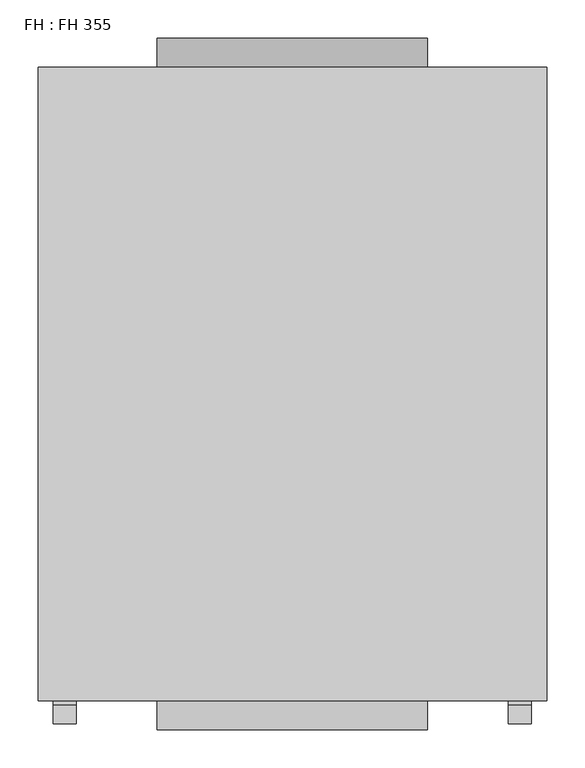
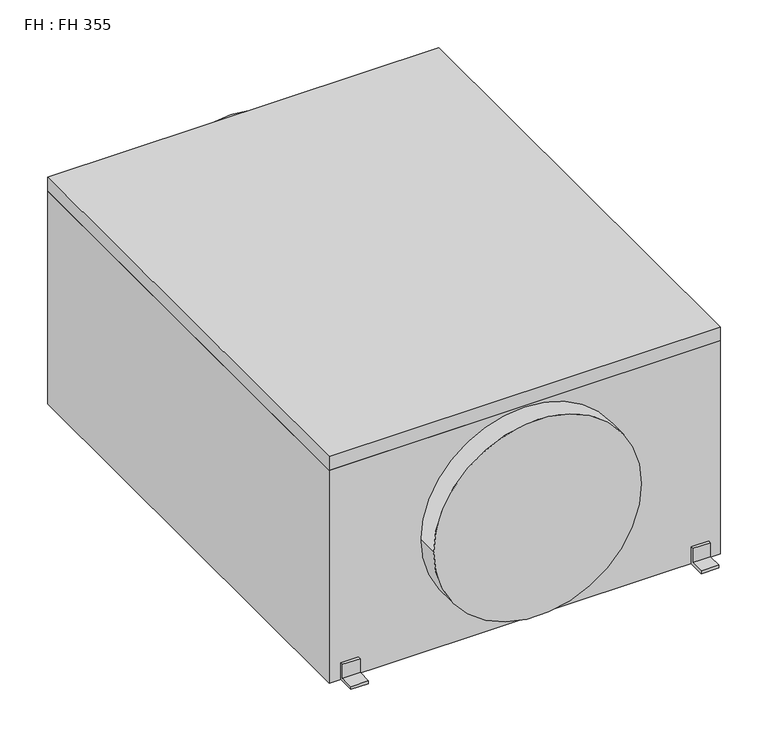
"""IFC4 building model written with IfcOpenShell, lengths in millimetres: proxy geometry, FH : FH 355."""

from ifc_helpers import new_model, si_unit, point, frame, frame_2d, origin, origin_with_axes, place, context, project, spatial, polyline, circle_curve, trimmed, segment, composite_curve, outline, extrude, source, transform, mapped, element, save


def fh_fh_355_93b582f7(model_context):
    return source(origin(), model_context, "Body", "SweptSolid", [
        extrude(outline(polyline([(334.0, 416.0), (334.0, -416.0), (-334.0, -416.0), (-334.0, 416.0), (334.0, 416.0)])), frame((0.0, 0.0, 385.0), z_axis=(0.0, 0.0, 1.0), x_axis=(1.0, 0.0, 0.0)), (0.0, 0.0, 1.0), 25.0),
        extrude(outline(polyline([(-416.0, 30.0), (-416.0, 0.0), (-446.0, 0.0), (-446.0, 5.0), (-421.0, 5.0), (-421.0, 30.0), (-416.0, 30.0)])), frame((284.0, 0.0, 0.0), z_axis=(1.0, 0.0, 0.0), x_axis=(0.0, 1.0, 0.0)), (0.0, 0.0, 1.0), 30.0),
        extrude(outline(polyline([(-416.0, 30.0), (-416.0, 0.0), (-446.0, 0.0), (-446.0, 5.0), (-421.0, 5.0), (-421.0, 30.0), (-416.0, 30.0)])), frame((-314.0, 0.0, 0.0), z_axis=(1.0, 0.0, 0.0), x_axis=(0.0, 1.0, 0.0)), (0.0, 0.0, 1.0), 30.0),
        extrude(outline(polyline([(334.0, 416.0), (334.0, -416.0), (-334.0, -416.0), (-334.0, 416.0), (334.0, 416.0)])), origin_with_axes(), (0.0, 0.0, 1.0), 385.0),
        extrude(outline(polyline([(416.0, 30.0), (421.0, 30.0), (421.0, 5.0), (446.0, 5.0), (446.0, 0.0), (416.0, 0.0), (416.0, 30.0)])), frame((151.0, 0.0, 0.0), z_axis=(1.0, 0.0, 0.0), x_axis=(0.0, 1.0, 0.0)), (0.0, 0.0, 1.0), 25.0),
        extrude(outline(polyline([(416.0, 30.0), (421.0, 30.0), (421.0, 5.0), (446.0, 5.0), (446.0, 0.0), (416.0, 0.0), (416.0, 30.0)])), frame((-176.0, 0.0, 0.0), z_axis=(1.0, 0.0, 0.0), x_axis=(0.0, 1.0, 0.0)), (0.0, 0.0, 1.0), 25.0),
        extrude(outline(composite_curve([segment(trimmed(circle_curve(frame_2d((205.0, 0.0)), 177.5), [point((205.0, -177.5))], [point((205.0, 177.5))], False, "CARTESIAN"), True, "CONTINUOUS"), segment(trimmed(circle_curve(frame_2d((205.0, 0.0)), 177.5), [point((205.0, 177.5))], [point((205.0, -177.5))], False, "CARTESIAN"), True, "CONTINUOUS")], self_intersect=False)), frame((0.0, -454.0, 0.0), z_axis=(0.0, 1.0, 0.0), x_axis=(0.0, 0.0, 1.0)), (0.0, 0.0, 1.0), 38.0),
        extrude(outline(composite_curve([segment(trimmed(circle_curve(frame_2d((205.0, 0.0)), 177.5), [point((205.0, -177.5))], [point((205.0, 177.5))], False, "CARTESIAN"), True, "CONTINUOUS"), segment(trimmed(circle_curve(frame_2d((205.0, 0.0)), 177.5), [point((205.0, 177.5))], [point((205.0, -177.5))], False, "CARTESIAN"), True, "CONTINUOUS")], self_intersect=False)), frame((0.0, 416.0, 0.0), z_axis=(0.0, 1.0, 0.0), x_axis=(0.0, 0.0, 1.0)), (0.0, 0.0, 1.0), 38.0),
    ])


if __name__ == "__main__":
    model = new_model("IFC4")
    model_context = context("Model", 3, world=origin())
    ifc_project = project(units=[si_unit("LENGTHUNIT", "METRE", prefix="MILLI")], contexts=[model_context])
    site = spatial("IfcSite", under=ifc_project)
    building = spatial("IfcBuilding", under=site)
    placement = place(None, origin())
    fh_fh_355_shape = fh_fh_355_93b582f7(model_context)
    element("IfcBuildingElementProxy", 1, Name="FH : FH 355", ObjectType="FH : FH 355", at=placement, inside=building, context=model_context, shape_type="MappedRepresentation", body=[
        mapped(fh_fh_355_shape, transform((0.0, 0.0, 0.0), x_axis=(1.0, 0.0, 0.0), y_axis=(0.0, 1.0, 0.0), z_axis=(0.0, 0.0, 1.0))),
    ])
    save(model, "model.ifc")
